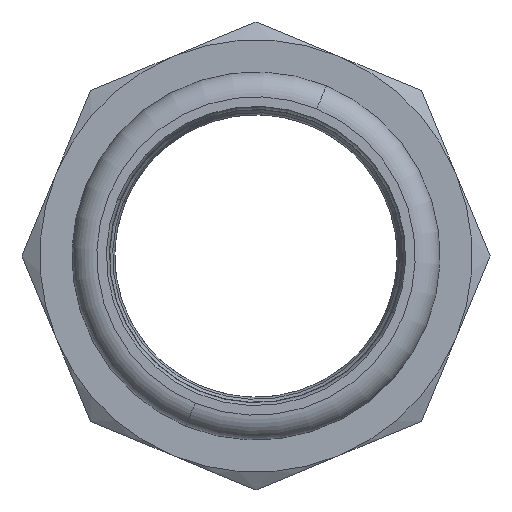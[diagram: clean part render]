
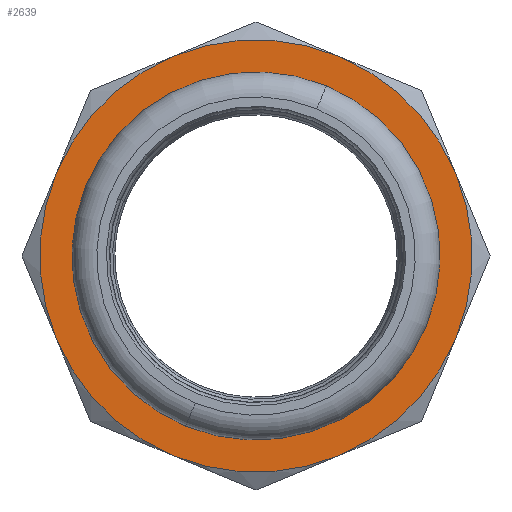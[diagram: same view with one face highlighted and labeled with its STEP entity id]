
A CAD part, left-side view. The second image highlights one B-rep face of the part: STEP entity #2639.
In plain terms, the highlighted planar face has unit normal (-1, 0, 0) as drawn and (0, 1, 0) by its records, which use the part's own axes.
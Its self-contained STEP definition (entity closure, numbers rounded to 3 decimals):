
#93 = AXIS2_PLACEMENT_3D ( 'NONE', #2461, #1738, #302 ) ;
#176 = ORIENTED_EDGE ( 'NONE', *, *, #1689, .T. ) ;
#276 = DIRECTION ( 'NONE',  ( 0., 1., 0. ) ) ;
#292 = AXIS2_PLACEMENT_3D ( 'NONE', #4022, #3630, #1431 ) ;
#302 = DIRECTION ( 'NONE',  ( 0., 0., 1. ) ) ;
#314 = CIRCLE ( 'NONE', #93, 19.65 ) ;
#321 = CARTESIAN_POINT ( 'NONE',  ( 0., 21., 19.65 ) ) ;
#343 = AXIS2_PLACEMENT_3D ( 'NONE', #1924, #467, #2684 ) ;
#374 = CARTESIAN_POINT ( 'NONE',  ( 24.021, 21., -9.95 ) ) ;
#467 = DIRECTION ( 'NONE',  ( 0., 1., 0. ) ) ;
#523 = EDGE_CURVE ( 'NONE', #2445, #2954, #3726, .T. ) ;
#548 = FACE_BOUND ( 'NONE', #3136, .T. ) ;
#589 = ORIENTED_EDGE ( 'NONE', *, *, #4793, .T. ) ;
#608 = CARTESIAN_POINT ( 'NONE',  ( 0., 21., 0. ) ) ;
#641 = AXIS2_PLACEMENT_3D ( 'NONE', #2526, #3694, #1827 ) ;
#662 = CIRCLE ( 'NONE', #292, 26. ) ;
#821 = EDGE_CURVE ( 'NONE', #2020, #4344, #662, .T. ) ;
#879 = CARTESIAN_POINT ( 'NONE',  ( 0., 21., 0. ) ) ;
#945 = CARTESIAN_POINT ( 'NONE',  ( -24.021, 21., -9.95 ) ) ;
#956 = CARTESIAN_POINT ( 'NONE',  ( 0., 21., 0. ) ) ;
#973 = DIRECTION ( 'NONE',  ( 0., 1., 0. ) ) ;
#997 = DIRECTION ( 'NONE',  ( 0., 0., 1. ) ) ;
#1009 = FACE_OUTER_BOUND ( 'NONE', #2200, .T. ) ;
#1082 = CIRCLE ( 'NONE', #1419, 19.65 ) ;
#1176 = DIRECTION ( 'NONE',  ( 0., 1., 0. ) ) ;
#1291 = ORIENTED_EDGE ( 'NONE', *, *, #3129, .T. ) ;
#1300 = CIRCLE ( 'NONE', #641, 26. ) ;
#1321 = DIRECTION ( 'NONE',  ( 1., 0., 0. ) ) ;
#1326 = EDGE_CURVE ( 'NONE', #4344, #2445, #2738, .T. ) ;
#1355 = EDGE_CURVE ( 'NONE', #2954, #1802, #1357, .T. ) ;
#1357 = CIRCLE ( 'NONE', #3615, 26. ) ;
#1387 = CARTESIAN_POINT ( 'NONE',  ( 0., 21., 0. ) ) ;
#1404 = DIRECTION ( 'NONE',  ( 0., 1., 0. ) ) ;
#1419 = AXIS2_PLACEMENT_3D ( 'NONE', #879, #1949, #4543 ) ;
#1431 = DIRECTION ( 'NONE',  ( 1., 0., 0. ) ) ;
#1481 = DIRECTION ( 'NONE',  ( 0., 1., 0. ) ) ;
#1482 = CARTESIAN_POINT ( 'NONE',  ( -24.021, 21., 9.95 ) ) ;
#1524 = CARTESIAN_POINT ( 'NONE',  ( -9.95, 21., 24.021 ) ) ;
#1606 = CARTESIAN_POINT ( 'NONE',  ( 9.95, 21., -24.021 ) ) ;
#1673 = ORIENTED_EDGE ( 'NONE', *, *, #4311, .T. ) ;
#1689 = EDGE_CURVE ( 'NONE', #1802, #2781, #1300, .T. ) ;
#1738 = DIRECTION ( 'NONE',  ( 0., -1., 0. ) ) ;
#1777 = PLANE ( 'NONE',  #3412 ) ;
#1798 = ORIENTED_EDGE ( 'NONE', *, *, #2544, .T. ) ;
#1802 = VERTEX_POINT ( 'NONE', #2646 ) ;
#1827 = DIRECTION ( 'NONE',  ( 1., 0., 0. ) ) ;
#1921 = CIRCLE ( 'NONE', #2030, 26. ) ;
#1924 = CARTESIAN_POINT ( 'NONE',  ( 0., 21., 0. ) ) ;
#1930 = EDGE_CURVE ( 'NONE', #2781, #2440, #1921, .T. ) ;
#1949 = DIRECTION ( 'NONE',  ( 0., -1., 0. ) ) ;
#2020 = VERTEX_POINT ( 'NONE', #4485 ) ;
#2030 = AXIS2_PLACEMENT_3D ( 'NONE', #2921, #1481, #4404 ) ;
#2083 = CARTESIAN_POINT ( 'NONE',  ( 0., 21., 0. ) ) ;
#2103 = CIRCLE ( 'NONE', #4501, 26. ) ;
#2200 = EDGE_LOOP ( 'NONE', ( #1673, #3829, #4417, #4446, #3137, #176, #3260, #589 ) ) ;
#2440 = VERTEX_POINT ( 'NONE', #374 ) ;
#2445 = VERTEX_POINT ( 'NONE', #1482 ) ;
#2461 = CARTESIAN_POINT ( 'NONE',  ( 0., 21., 0. ) ) ;
#2468 = DIRECTION ( 'NONE',  ( 1., 0., 0. ) ) ;
#2526 = CARTESIAN_POINT ( 'NONE',  ( 0., 21., 0. ) ) ;
#2544 = EDGE_CURVE ( 'NONE', #2861, #4106, #314, .T. ) ;
#2639 = ADVANCED_FACE ( 'NONE', ( #548, #1009 ), #1777, .T. ) ;
#2646 = CARTESIAN_POINT ( 'NONE',  ( 9.95, 21., 24.021 ) ) ;
#2684 = DIRECTION ( 'NONE',  ( 1., 0., 0. ) ) ;
#2738 = CIRCLE ( 'NONE', #4772, 26. ) ;
#2741 = CARTESIAN_POINT ( 'NONE',  ( 0., 21., -19.65 ) ) ;
#2781 = VERTEX_POINT ( 'NONE', #3706 ) ;
#2861 = VERTEX_POINT ( 'NONE', #2741 ) ;
#2921 = CARTESIAN_POINT ( 'NONE',  ( 0., 21., 0. ) ) ;
#2954 = VERTEX_POINT ( 'NONE', #1524 ) ;
#3084 = CIRCLE ( 'NONE', #343, 26. ) ;
#3129 = EDGE_CURVE ( 'NONE', #4106, #2861, #1082, .T. ) ;
#3136 = EDGE_LOOP ( 'NONE', ( #1291, #1798 ) ) ;
#3137 = ORIENTED_EDGE ( 'NONE', *, *, #1355, .T. ) ;
#3260 = ORIENTED_EDGE ( 'NONE', *, *, #1930, .T. ) ;
#3405 = CARTESIAN_POINT ( 'NONE',  ( 0., 21., 0. ) ) ;
#3412 = AXIS2_PLACEMENT_3D ( 'NONE', #2083, #3605, #997 ) ;
#3605 = DIRECTION ( 'NONE',  ( 0., 1., 0. ) ) ;
#3615 = AXIS2_PLACEMENT_3D ( 'NONE', #608, #276, #2468 ) ;
#3630 = DIRECTION ( 'NONE',  ( 0., 1., 0. ) ) ;
#3694 = DIRECTION ( 'NONE',  ( 0., 1., 0. ) ) ;
#3706 = CARTESIAN_POINT ( 'NONE',  ( 24.021, 21., 9.95 ) ) ;
#3726 = CIRCLE ( 'NONE', #3843, 26. ) ;
#3744 = DIRECTION ( 'NONE',  ( 1., 0., 0. ) ) ;
#3752 = VERTEX_POINT ( 'NONE', #1606 ) ;
#3829 = ORIENTED_EDGE ( 'NONE', *, *, #821, .T. ) ;
#3843 = AXIS2_PLACEMENT_3D ( 'NONE', #1387, #1404, #3978 ) ;
#3978 = DIRECTION ( 'NONE',  ( 1., 0., 0. ) ) ;
#4022 = CARTESIAN_POINT ( 'NONE',  ( 0., 21., 0. ) ) ;
#4106 = VERTEX_POINT ( 'NONE', #321 ) ;
#4311 = EDGE_CURVE ( 'NONE', #3752, #2020, #2103, .T. ) ;
#4344 = VERTEX_POINT ( 'NONE', #945 ) ;
#4404 = DIRECTION ( 'NONE',  ( 0., 0., -1. ) ) ;
#4417 = ORIENTED_EDGE ( 'NONE', *, *, #1326, .T. ) ;
#4446 = ORIENTED_EDGE ( 'NONE', *, *, #523, .T. ) ;
#4485 = CARTESIAN_POINT ( 'NONE',  ( -9.95, 21., -24.021 ) ) ;
#4501 = AXIS2_PLACEMENT_3D ( 'NONE', #3405, #1176, #3744 ) ;
#4543 = DIRECTION ( 'NONE',  ( 0., 0., 1. ) ) ;
#4772 = AXIS2_PLACEMENT_3D ( 'NONE', #956, #973, #1321 ) ;
#4793 = EDGE_CURVE ( 'NONE', #2440, #3752, #3084, .T. ) ;
